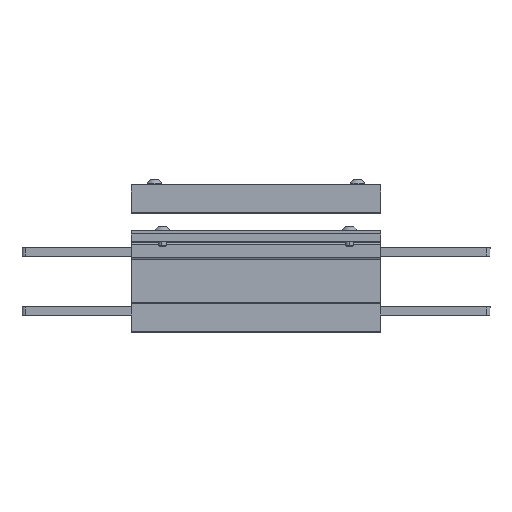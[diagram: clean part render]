
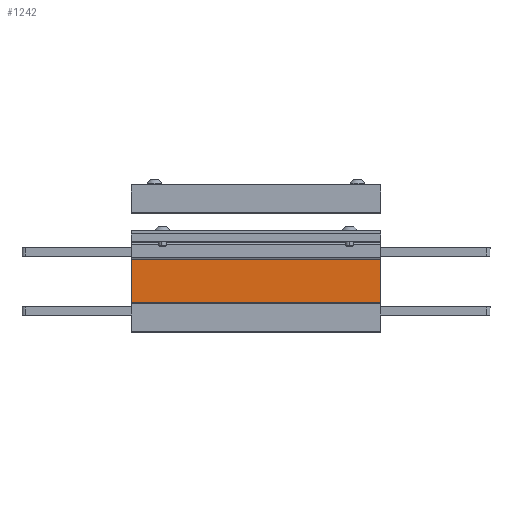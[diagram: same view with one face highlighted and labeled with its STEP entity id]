
A CAD part, front view. The second image highlights one B-rep face of the part: STEP entity #1242.
In plain terms, the highlighted planar face has unit normal (0, -1, 0).
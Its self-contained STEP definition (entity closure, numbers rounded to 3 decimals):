
#1242 = ADVANCED_FACE ( 'NONE', ( #4443 ), #5173, .F. ) ;
#1484 = ORIENTED_EDGE ( 'NONE', *, *, #1953, .T. ) ;
#1485 = ORIENTED_EDGE ( 'NONE', *, *, #1954, .F. ) ;
#1486 = ORIENTED_EDGE ( 'NONE', *, *, #1955, .F. ) ;
#1487 = ORIENTED_EDGE ( 'NONE', *, *, #1951, .T. ) ;
#1733 = EDGE_LOOP ( 'NONE', ( #1484, #1485, #1486, #1487 ) ) ;
#1951 = EDGE_CURVE ( 'NONE', #3130, #3123, #4639, .T. ) ;
#1953 = EDGE_CURVE ( 'NONE', #3123, #3125, #5985, .T. ) ;
#1954 = EDGE_CURVE ( 'NONE', #3132, #3125, #5988, .T. ) ;
#1955 = EDGE_CURVE ( 'NONE', #3130, #3132, #5991, .T. ) ;
#3123 = VERTEX_POINT ( 'NONE', #7137 ) ;
#3125 = VERTEX_POINT ( 'NONE', #7139 ) ;
#3130 = VERTEX_POINT ( 'NONE', #7144 ) ;
#3132 = VERTEX_POINT ( 'NONE', #7146 ) ;
#4443 = FACE_OUTER_BOUND ( 'NONE', #1733, .T. ) ;
#4639 = LINE ( 'NONE', #5683, #4641 ) ;
#4641 = VECTOR ( 'NONE', #5685, 1000. ) ;
#4728 = AXIS2_PLACEMENT_3D ( 'NONE', #5175, #5180, #5181 ) ;
#5173 = PLANE ( 'NONE',  #4728 ) ;
#5175 = CARTESIAN_POINT ( 'NONE',  ( 160., -10.25, 14.25 ) ) ;
#5180 = DIRECTION ( 'NONE',  ( 0., 1., 0. ) ) ;
#5181 = DIRECTION ( 'NONE',  ( 0., 0., 1. ) ) ;
#5678 = CARTESIAN_POINT ( 'NONE',  ( 160., -10.25, 14.25 ) ) ;
#5683 = CARTESIAN_POINT ( 'NONE',  ( 160., -10.25, 14.25 ) ) ;
#5685 = DIRECTION ( 'NONE',  ( -1., 0., 0. ) ) ;
#5687 = CARTESIAN_POINT ( 'NONE',  ( 0., -10.25, 14.25 ) ) ;
#5688 = DIRECTION ( 'NONE',  ( 0., 0., -1. ) ) ;
#5689 = CARTESIAN_POINT ( 'NONE',  ( 160., -10.25, -14.25 ) ) ;
#5691 = DIRECTION ( 'NONE',  ( -1., 0., 0. ) ) ;
#5692 = DIRECTION ( 'NONE',  ( 0., 0., -1. ) ) ;
#5985 = LINE ( 'NONE', #5687, #5986 ) ;
#5986 = VECTOR ( 'NONE', #5688, 1000. ) ;
#5988 = LINE ( 'NONE', #5689, #5989 ) ;
#5989 = VECTOR ( 'NONE', #5691, 1000. ) ;
#5991 = LINE ( 'NONE', #5678, #5992 ) ;
#5992 = VECTOR ( 'NONE', #5692, 1000. ) ;
#7137 = CARTESIAN_POINT ( 'NONE',  ( 0., -10.25, 14.25 ) ) ;
#7139 = CARTESIAN_POINT ( 'NONE',  ( 0., -10.25, -14.25 ) ) ;
#7144 = CARTESIAN_POINT ( 'NONE',  ( 160., -10.25, 14.25 ) ) ;
#7146 = CARTESIAN_POINT ( 'NONE',  ( 160., -10.25, -14.25 ) ) ;
